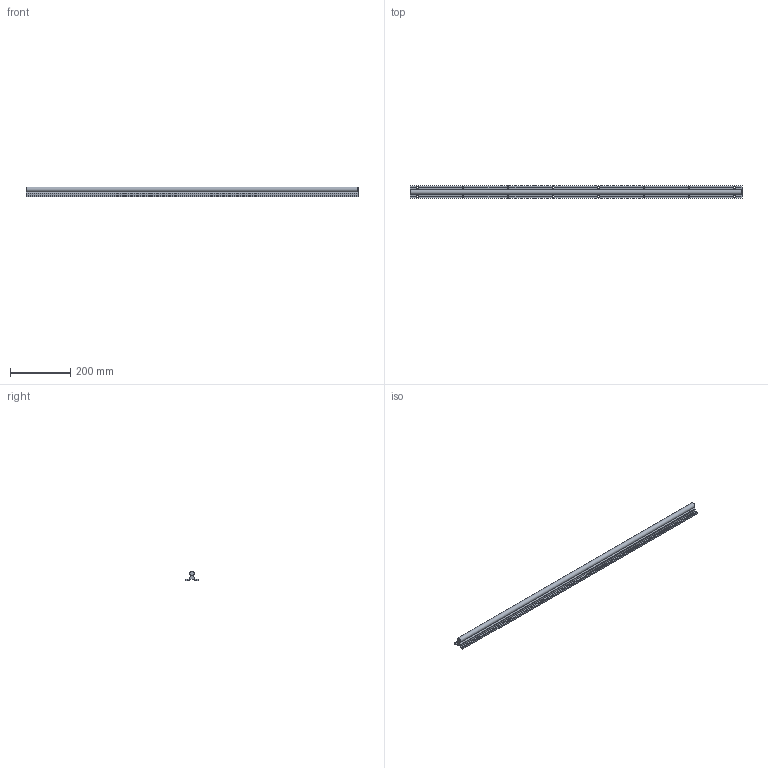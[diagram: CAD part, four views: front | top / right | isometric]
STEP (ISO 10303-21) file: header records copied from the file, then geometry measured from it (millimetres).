
FILE_DESCRIPTION(/* description */ (''),/* implementation_level */ '2;1');
FILE_NAME(/* name */ 'C:\Users\David\Desktop\stepFiles\Profilfuehrung\LFS16x1100.stp',/* time_stamp */ '2018-06-24T15:18:17+02:00',/* author */ ('Buskamp'),/* organization */ (''),/* preprocessor_version */ 'ST-DEVELOPER v17',/* originating_system */ 'Autodesk Inventor 2019',/* authorisation */ '');
FILE_SCHEMA (('AUTOMOTIVE_DESIGN { 1 0 10303 214 3 1 1 }'));
Length unit declared in the file: millimetre
Products named in the file (1): Linearführung D16xvariabel
Bounding box: 1100 x 40 x 32.97 mm (x, y, z)
Volume: 561593 mm3; surface area: 172984.5 mm2
Topology: 1 solids, 1 shells, 108 faces, 350 edges, 228 vertices
Faces by surface type: plane 73, cone 18, cylinder 17
Full cylindrical faces by diameter (mm): 5.5 x16
Entity records: 3945 total; most frequent: CARTESIAN_POINT 759, ORIENTED_EDGE 700, DIRECTION 664, EDGE_CURVE 350, AXIS2_PLACEMENT_3D 241, VERTEX_POINT 228, LINE 182, VECTOR 182
